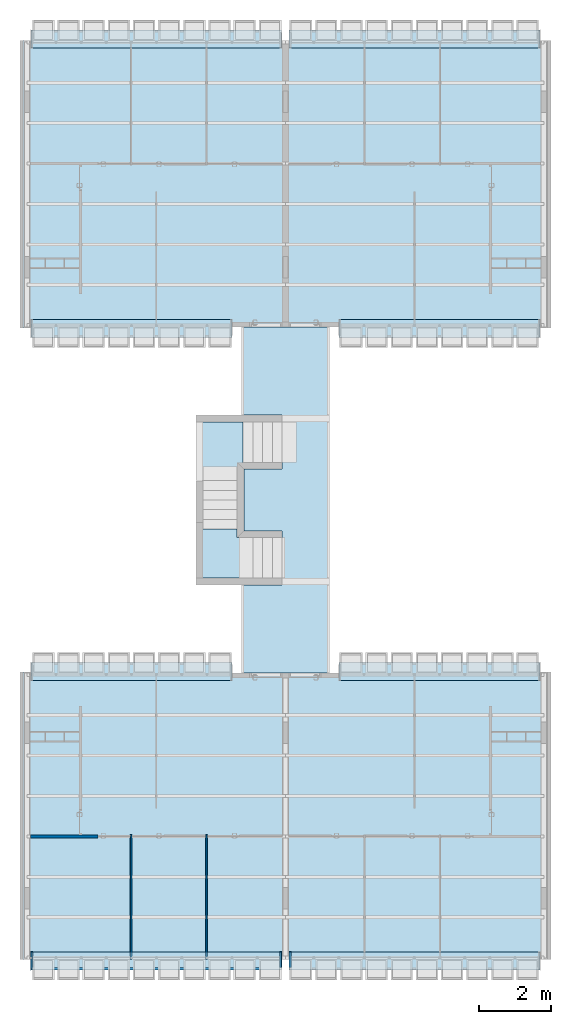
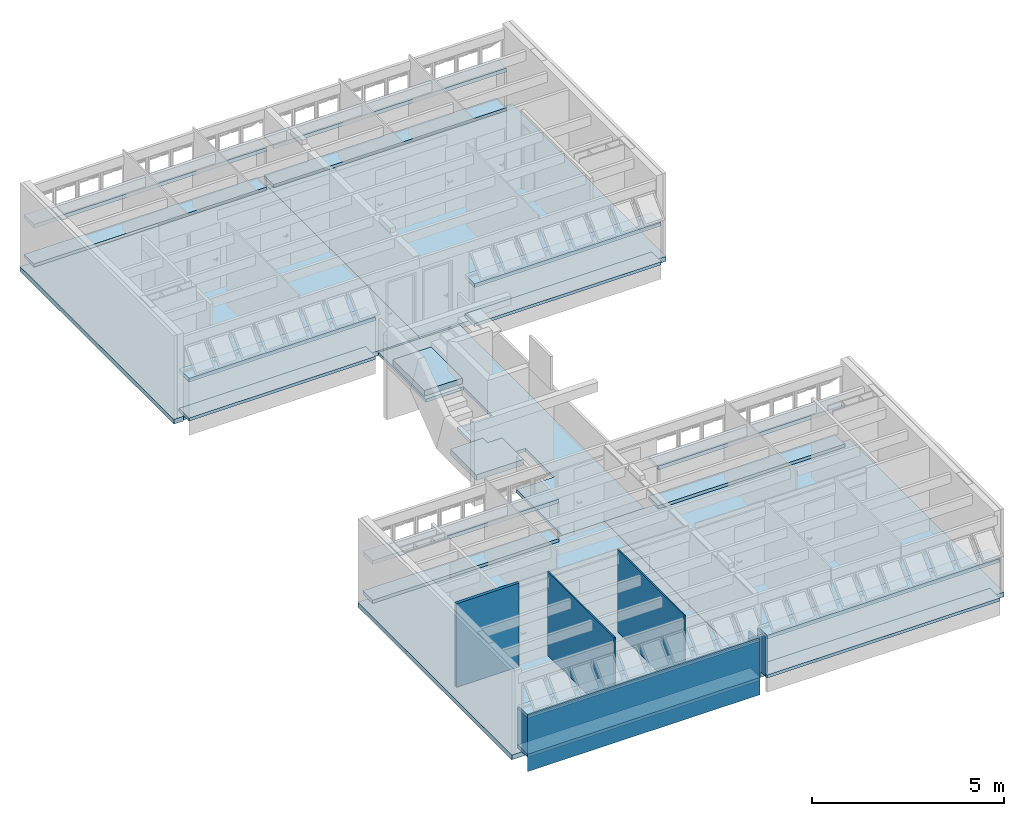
# One storey, part 4 of 38: 23 slabs, 7 walls.
"""IFC2X3 building model written with IfcOpenShell, lengths in millimetres."""

from ifc_helpers import new_model, entity, si_unit, converted_unit, derived_unit, money_unit, direction, frame, origin_with_axes, place, context, subcontext, project, spatial, polyline, outline, extrude, material, layer, layer_set, layer_usage, type_object, element, save


model = new_model("IFC2X3")

# Units and contexts
model_context = context("Model", 3, precision=0.01, world=origin_with_axes(), true_north=direction((0.0, 1.0)))
body_context = subcontext(model_context, "Body", "Model", "MODEL_VIEW")
ifc_project = project(units=[si_unit("LENGTHUNIT", "METRE", prefix="MILLI"), si_unit("AREAUNIT", "SQUARE_METRE"), si_unit("VOLUMEUNIT", "CUBIC_METRE"), converted_unit("PLANEANGLEUNIT", "DEGREE", entity("IfcPlaneAngleMeasure", 0.0174532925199), si_unit("PLANEANGLEUNIT", "RADIAN"), dimensions=[0, 0, 0, 0, 0, 0, 0]), money_unit("USD"), converted_unit("TIMEUNIT", "Year", entity("IfcTimeMeasure", 31556926.0), si_unit("TIMEUNIT", "SECOND"), dimensions=[0, 0, 1, 0, 0, 0, 0]), si_unit("MASSUNIT", "GRAM", prefix="KILO"), si_unit("THERMODYNAMICTEMPERATUREUNIT", "DEGREE_CELSIUS"), si_unit("LUMINOUSINTENSITYUNIT", "LUMEN"), si_unit("ENERGYUNIT", "JOULE", prefix="MEGA"), derived_unit("THERMALCONDUCTANCEUNIT", [(si_unit("POWERUNIT", "WATT"), 1), (si_unit("LENGTHUNIT", "METRE"), -1), (si_unit("THERMODYNAMICTEMPERATUREUNIT", "KELVIN"), -1)]), derived_unit("SPECIFICHEATCAPACITYUNIT", [(si_unit("ENERGYUNIT", "JOULE"), 1), (si_unit("MASSUNIT", "GRAM", prefix="KILO"), -1), (si_unit("THERMODYNAMICTEMPERATUREUNIT", "KELVIN"), -1)]), derived_unit("MASSDENSITYUNIT", [(si_unit("MASSUNIT", "GRAM", prefix="KILO"), 1), (si_unit("VOLUMEUNIT", "CUBIC_METRE"), -1)])], contexts=[model_context])

# Site, building, storey
site_placement = place(None, origin_with_axes())
site = spatial("IfcSite", under=ifc_project, at=site_placement, Name="Local", CompositionType="ELEMENT")
building_placement = place(site_placement, origin_with_axes())
building = spatial("IfcBuilding", under=site, at=building_placement, Name="Construção", CompositionType="ELEMENT")
storey_placement = place(building_placement, frame((0.0, 0.0, 2650.0), z_axis=(0.0, 0.0, 1.0), x_axis=(1.0, 0.0, 0.0)))
storey = spatial("IfcBuildingStorey", under=building, at=storey_placement, Name="Segundo Pavimento", CompositionType="ELEMENT", Elevation=2650.0)

# Slabs
ifc_material_1 = material(Name="Concreto Armado Moldado in Loco - Estrutural")
ifc_layer_1 = layer(ifc_material_1, 150.0, ventilated="UNKNOWN")
ifc_layer_set_1 = layer_set([ifc_layer_1], Name="Concreto Armado Moldado in Loco - Estrutural 150")
ifc_layer_usage_1 = layer_usage(ifc_layer_set_1, "AXIS3", "NEGATIVE", 150.0)
slab_type_1 = type_object("IfcSlabType", Name="Concreto Armado Moldado in Loco - Estrutural 150", PredefinedType="FLOOR")
slab_1_placement = place(storey_placement, frame((0.0, 300.0, 0.0), z_axis=(0.0, 0.0, 1.0), x_axis=(1.0, 0.0, 0.0)))
element("IfcSlab", 1, at=slab_1_placement, inside=storey, type_object=slab_type_1, material=ifc_layer_usage_1, Name="APTO5-LAJE-000", PredefinedType="FLOOR", context=body_context, shape_type="SweptSolid", body=[
    extrude(outline(polyline([(0.0, 0.0), (299.999978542, 0.0), (7385.0, 0.0), (7385.0, 7964.99999866), (6160.00008404, 7964.99999866), (5900.0, 7965.0), (290.0, 7965.0), (289.999999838, 8000.00000006), (0.0, 7999.99999872), (0.0, 0.0)])), frame((0.0, 0.0, -150.0), z_axis=(0.0, 0.0, 1.0), x_axis=(1.0, 0.0, 0.0)), (0.0, 0.0, 1.0), 150.0),
])
ifc_layer_usage_2 = layer_usage(ifc_layer_set_1, "AXIS3", "NEGATIVE", 150.0)
slab_2_placement = place(storey_placement, frame((14770.0, 300.0, 0.0), z_axis=(0.0, 0.0, 1.0), x_axis=(1.0, 0.0, 0.0)))
element("IfcSlab", 2, at=slab_2_placement, inside=storey, type_object=slab_type_1, material=ifc_layer_usage_2, Name="APTO6-LAJE-000", PredefinedType="FLOOR", context=body_context, shape_type="SweptSolid", body=[
    extrude(outline(polyline([(0.0, 0.0), (0.0, 7999.99999872), (-289.999999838, 8000.00000006), (-290.0, 7965.0), (-5900.0, 7965.0), (-6160.00008404, 7964.99999866), (-7385.0, 7964.99999866), (-7385.0, 0.0), (-299.999978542, 0.0), (0.0, 0.0)])), frame((0.0, 0.0, -150.0), z_axis=(0.0, 0.0, 1.0), x_axis=(1.0, 0.0, 0.0)), (0.0, 0.0, 1.0), 150.0),
])
ifc_layer_usage_3 = layer_usage(ifc_layer_set_1, "AXIS3", "NEGATIVE", 150.0)
slab_3_placement = place(storey_placement, frame((0.0, 25860.0, 0.0), z_axis=(0.0, 0.0, 1.0), x_axis=(1.0, 0.0, 0.0)))
element("IfcSlab", 3, at=slab_3_placement, inside=storey, type_object=slab_type_1, material=ifc_layer_usage_3, Name="APTO7-LAJE-000", PredefinedType="FLOOR", context=body_context, shape_type="SweptSolid", body=[
    extrude(outline(polyline([(0.0, 0.0), (0.0, -7999.99999872), (289.999999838, -8000.00000006), (290.0, -7965.0), (5900.0, -7965.0), (6160.00008404, -7964.99999866), (7385.0, -7964.99999866), (7385.0, 0.0), (299.999978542, 0.0), (0.0, 0.0)])), frame((0.0, 0.0, -150.0), z_axis=(0.0, 0.0, 1.0), x_axis=(1.0, 0.0, 0.0)), (0.0, 0.0, 1.0), 150.0),
])
ifc_layer_usage_4 = layer_usage(ifc_layer_set_1, "AXIS3", "NEGATIVE", 150.0)
slab_4_placement = place(storey_placement, frame((14770.0, 25860.0, 0.0), z_axis=(0.0, 0.0, 1.0), x_axis=(1.0, 0.0, 0.0)))
element("IfcSlab", 4, at=slab_4_placement, inside=storey, type_object=slab_type_1, material=ifc_layer_usage_4, Name="APTO8-LAJE-000", PredefinedType="FLOOR", context=body_context, shape_type="SweptSolid", body=[
    extrude(outline(polyline([(0.0, 0.0), (-299.999978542, 0.0), (-7385.0, 0.0), (-7385.0, -7964.99999866), (-6160.00008404, -7964.99999866), (-5900.0, -7965.0), (-290.0, -7965.0), (-289.999999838, -8000.00000006), (0.0, -7999.99999872), (0.0, 0.0)])), frame((0.0, 0.0, -150.0), z_axis=(0.0, 0.0, 1.0), x_axis=(1.0, 0.0, 0.0)), (0.0, 0.0, 1.0), 150.0),
])
ifc_layer_2 = layer(ifc_material_1, 180.0, ventilated="UNKNOWN")
ifc_layer_set_2 = layer_set([ifc_layer_2], Name="Concreto Armado Moldado in Loco - Estrutural 180")
ifc_layer_usage_5 = layer_usage(ifc_layer_set_2, "AXIS3", "NEGATIVE", 180.0)
slab_type_2 = type_object("IfcSlabType", Name="Concreto Armado Moldado in Loco - Estrutural 180", PredefinedType="FLOOR")
slab_5_placement = place(storey_placement, frame((5065.0, 13620.0, 1710.57075871), z_axis=(0.0, 0.0, 1.0), x_axis=(1.0, 0.0, 0.0)))
element("IfcSlab", 5, at=slab_5_placement, inside=storey, type_object=slab_type_2, material=ifc_layer_usage_5, Name="CIRC2-LAJE-005", PredefinedType="FLOOR", context=body_context, shape_type="SweptSolid", body=[
    extrude(outline(polyline([(0.0, 0.0), (1145.0, 0.0), (1145.0, 1630.0), (0.0, 1630.0), (0.0, 0.0)])), frame((0.0, 0.0, -180.0), z_axis=(0.0, 0.0, 1.0), x_axis=(1.0, 0.0, 0.0)), (0.0, 0.0, 1.0), 180.0),
])
ifc_layer_usage_6 = layer_usage(ifc_layer_set_2, "AXIS3", "NEGATIVE", 180.0)
slab_6_placement = place(storey_placement, frame((5065.0, 10910.0, 680.0), z_axis=(0.0, 0.0, 1.0), x_axis=(1.0, 0.0, 0.0)))
element("IfcSlab", 6, at=slab_6_placement, inside=storey, type_object=slab_type_2, material=ifc_layer_usage_6, Name="CIRC2-LAJE-006", PredefinedType="FLOOR", context=body_context, shape_type="SweptSolid", body=[
    extrude(outline(polyline([(0.0, 0.0), (1415.0, 0.0), (1415.0, 1120.0), (975.0, 1120.0), (975.0, 1360.0), (0.0, 1360.0), (0.0, 0.0)])), frame((0.0, 0.0, -180.0), z_axis=(0.0, 0.0, 1.0), x_axis=(1.0, 0.0, 0.0)), (0.0, 0.0, 1.0), 180.0),
])
ifc_layer_3 = layer(ifc_material_1, 120.0, ventilated="UNKNOWN")
ifc_layer_set_3 = layer_set([ifc_layer_3], Name="Concreto Armado Moldado in Loco - Estrutural 120")
ifc_layer_usage_7 = layer_usage(ifc_layer_set_3, "AXIS3", "NEGATIVE", 120.0)
slab_type_3 = type_object("IfcSlabType", Name="Concreto Armado Moldado in Loco - Estrutural 120", PredefinedType="FLOOR")
slab_7_placement = place(storey_placement, frame((300.0, 8564.99999866, 1355.0), z_axis=(0.0, 0.0, 1.0), x_axis=(1.0, 0.0, 0.0)))
element("IfcSlab", 7, at=slab_7_placement, inside=storey, type_object=slab_type_3, material=ifc_layer_usage_7, Name="APTO5-LAJE-003", PredefinedType="FLOOR", context=body_context, shape_type="SweptSolid", body=[
    extrude(outline(polyline([(0.0, 0.0), (0.0, -510.0), (5600.0, -510.0), (5600.0, 0.0), (0.0, 0.0)])), frame((0.0, 0.0, -120.0), z_axis=(0.0, 0.0, 1.0), x_axis=(1.0, 0.0, 0.0)), (0.0, 0.0, 1.0), 120.0),
])
ifc_layer_usage_8 = layer_usage(ifc_layer_set_3, "AXIS3", "NEGATIVE", 120.0)
slab_8_placement = place(storey_placement, frame((300.0, 0.0, 1355.0), z_axis=(0.0, 0.0, 1.0), x_axis=(1.0, 0.0, 0.0)))
element("IfcSlab", 8, at=slab_8_placement, inside=storey, type_object=slab_type_3, material=ifc_layer_usage_8, Name="APTO5-LAJE-002", PredefinedType="FLOOR", context=body_context, shape_type="SweptSolid", body=[
    extrude(outline(polyline([(0.0, 0.0), (6980.0, 0.0), (6980.0, 510.0), (0.0, 510.0), (0.0, 0.0)])), frame((0.0, 0.0, -120.0), z_axis=(0.0, 0.0, 1.0), x_axis=(1.0, 0.0, 0.0)), (0.0, 0.0, 1.0), 120.0),
])
ifc_layer_usage_9 = layer_usage(ifc_layer_set_3, "AXIS3", "NEGATIVE", 120.0)
slab_9_placement = place(storey_placement, frame((14470.0, 8564.99999866, 1355.0), z_axis=(0.0, 0.0, 1.0), x_axis=(1.0, 0.0, 0.0)))
element("IfcSlab", 9, at=slab_9_placement, inside=storey, type_object=slab_type_3, material=ifc_layer_usage_9, Name="APTO6-LAJE-003", PredefinedType="FLOOR", context=body_context, shape_type="SweptSolid", body=[
    extrude(outline(polyline([(0.0, 0.0), (-5600.0, 0.0), (-5600.0, -510.0), (0.0, -510.0), (0.0, 0.0)])), frame((0.0, 0.0, -120.0), z_axis=(0.0, 0.0, 1.0), x_axis=(1.0, 0.0, 0.0)), (0.0, 0.0, 1.0), 120.0),
])
ifc_layer_usage_10 = layer_usage(ifc_layer_set_3, "AXIS3", "NEGATIVE", 120.0)
slab_10_placement = place(storey_placement, frame((14470.0, 0.0, 1355.0), z_axis=(0.0, 0.0, 1.0), x_axis=(1.0, 0.0, 0.0)))
element("IfcSlab", 10, at=slab_10_placement, inside=storey, type_object=slab_type_3, material=ifc_layer_usage_10, Name="APTO6-LAJE-002", PredefinedType="FLOOR", context=body_context, shape_type="SweptSolid", body=[
    extrude(outline(polyline([(0.0, 0.0), (0.0, 510.0), (-6980.0, 510.0), (-6980.0, 0.0), (0.0, 0.0)])), frame((0.0, 0.0, -120.0), z_axis=(0.0, 0.0, 1.0), x_axis=(1.0, 0.0, 0.0)), (0.0, 0.0, 1.0), 120.0),
])
ifc_layer_usage_11 = layer_usage(ifc_layer_set_3, "AXIS3", "NEGATIVE", 120.0)
slab_11_placement = place(storey_placement, frame((300.0, 17595.0000013, 1355.0), z_axis=(0.0, 0.0, 1.0), x_axis=(1.0, 0.0, 0.0)))
element("IfcSlab", 11, at=slab_11_placement, inside=storey, type_object=slab_type_3, material=ifc_layer_usage_11, Name="APTO7-LAJE-003", PredefinedType="FLOOR", context=body_context, shape_type="SweptSolid", body=[
    extrude(outline(polyline([(0.0, 0.0), (5600.0, 0.0), (5600.0, 510.0), (0.0, 510.0), (0.0, 0.0)])), frame((0.0, 0.0, -120.0), z_axis=(0.0, 0.0, 1.0), x_axis=(1.0, 0.0, 0.0)), (0.0, 0.0, 1.0), 120.0),
])
ifc_layer_usage_12 = layer_usage(ifc_layer_set_3, "AXIS3", "NEGATIVE", 120.0)
slab_12_placement = place(storey_placement, frame((300.0, 26160.0, 1355.0), z_axis=(0.0, 0.0, 1.0), x_axis=(1.0, 0.0, 0.0)))
element("IfcSlab", 12, at=slab_12_placement, inside=storey, type_object=slab_type_3, material=ifc_layer_usage_12, Name="APTO7-LAJE-002", PredefinedType="FLOOR", context=body_context, shape_type="SweptSolid", body=[
    extrude(outline(polyline([(0.0, 0.0), (0.0, -510.0), (6980.0, -510.0), (6980.0, 0.0), (0.0, 0.0)])), frame((0.0, 0.0, -120.0), z_axis=(0.0, 0.0, 1.0), x_axis=(1.0, 0.0, 0.0)), (0.0, 0.0, 1.0), 120.0),
])
ifc_layer_usage_13 = layer_usage(ifc_layer_set_3, "AXIS3", "NEGATIVE", 120.0)
slab_13_placement = place(storey_placement, frame((14470.0, 17595.0000013, 1355.0), z_axis=(0.0, 0.0, 1.0), x_axis=(1.0, 0.0, 0.0)))
element("IfcSlab", 13, at=slab_13_placement, inside=storey, type_object=slab_type_3, material=ifc_layer_usage_13, Name="APTO8-LAJE-003", PredefinedType="FLOOR", context=body_context, shape_type="SweptSolid", body=[
    extrude(outline(polyline([(0.0, 0.0), (0.0, 510.0), (-5600.0, 510.0), (-5600.0, 0.0), (0.0, 0.0)])), frame((0.0, 0.0, -120.0), z_axis=(0.0, 0.0, 1.0), x_axis=(1.0, 0.0, 0.0)), (0.0, 0.0, 1.0), 120.0),
])
ifc_layer_usage_14 = layer_usage(ifc_layer_set_3, "AXIS3", "NEGATIVE", 120.0)
slab_14_placement = place(storey_placement, frame((14470.0, 26160.0, 1355.0), z_axis=(0.0, 0.0, 1.0), x_axis=(1.0, 0.0, 0.0)))
element("IfcSlab", 14, at=slab_14_placement, inside=storey, type_object=slab_type_3, material=ifc_layer_usage_14, Name="APTO8-LAJE-002", PredefinedType="FLOOR", context=body_context, shape_type="SweptSolid", body=[
    extrude(outline(polyline([(0.0, 0.0), (-6980.0, 0.0), (-6980.0, -510.0), (0.0, -510.0), (0.0, 0.0)])), frame((0.0, 0.0, -120.0), z_axis=(0.0, 0.0, 1.0), x_axis=(1.0, 0.0, 0.0)), (0.0, 0.0, 1.0), 120.0),
])
ifc_layer_4 = layer(ifc_material_1, 100.0, ventilated="UNKNOWN")
ifc_layer_set_4 = layer_set([ifc_layer_4], Name="Concreto Armado Moldado in Loco - Estrutural 100")
ifc_layer_usage_15 = layer_usage(ifc_layer_set_4, "AXIS3", "NEGATIVE", 100.0)
slab_type_4 = type_object("IfcSlabType", Name="Concreto Armado Moldado in Loco - Estrutural 100", PredefinedType="FLOOR")
slab_15_placement = place(storey_placement, frame((300.0, 0.0, 100.0), z_axis=(0.0, 0.0, 1.0), x_axis=(1.0, 0.0, 0.0)))
element("IfcSlab", 15, at=slab_15_placement, inside=storey, type_object=slab_type_4, material=ifc_layer_usage_15, Name="APTO5-LAJE-001", PredefinedType="FLOOR", context=body_context, shape_type="SweptSolid", body=[
    extrude(outline(polyline([(0.0, 0.0), (6980.0, 0.0), (6980.0, 510.0), (0.0, 510.0), (0.0, 0.0)])), frame((0.0, 0.0, -100.0), z_axis=(0.0, 0.0, 1.0), x_axis=(1.0, 0.0, 0.0)), (0.0, 0.0, 1.0), 100.0),
])
ifc_layer_usage_16 = layer_usage(ifc_layer_set_4, "AXIS3", "NEGATIVE", 100.0)
slab_16_placement = place(storey_placement, frame((300.0, 8564.99999866, 100.0), z_axis=(0.0, 0.0, 1.0), x_axis=(1.0, 0.0, 0.0)))
element("IfcSlab", 16, at=slab_16_placement, inside=storey, type_object=slab_type_4, material=ifc_layer_usage_16, Name="APTO5-LAJE-004", PredefinedType="FLOOR", context=body_context, shape_type="SweptSolid", body=[
    extrude(outline(polyline([(0.0, 0.0), (0.0, -510.0), (5600.0, -510.0), (5600.0, 0.0), (0.0, 0.0)])), frame((0.0, 0.0, -100.0), z_axis=(0.0, 0.0, 1.0), x_axis=(1.0, 0.0, 0.0)), (0.0, 0.0, 1.0), 100.0),
])
ifc_layer_usage_17 = layer_usage(ifc_layer_set_4, "AXIS3", "NEGATIVE", 100.0)
slab_17_placement = place(storey_placement, frame((14470.0, 0.0, 100.0), z_axis=(0.0, 0.0, 1.0), x_axis=(1.0, 0.0, 0.0)))
element("IfcSlab", 17, at=slab_17_placement, inside=storey, type_object=slab_type_4, material=ifc_layer_usage_17, Name="APTO6-LAJE-001", PredefinedType="FLOOR", context=body_context, shape_type="SweptSolid", body=[
    extrude(outline(polyline([(0.0, 0.0), (0.0, 510.0), (-6980.0, 510.0), (-6980.0, 0.0), (0.0, 0.0)])), frame((0.0, 0.0, -100.0), z_axis=(0.0, 0.0, 1.0), x_axis=(1.0, 0.0, 0.0)), (0.0, 0.0, 1.0), 100.0),
])
ifc_layer_usage_18 = layer_usage(ifc_layer_set_4, "AXIS3", "NEGATIVE", 100.0)
slab_18_placement = place(storey_placement, frame((14470.0, 8564.99999866, 100.0), z_axis=(0.0, 0.0, 1.0), x_axis=(1.0, 0.0, 0.0)))
element("IfcSlab", 18, at=slab_18_placement, inside=storey, type_object=slab_type_4, material=ifc_layer_usage_18, Name="APTO6-LAJE-004", PredefinedType="FLOOR", context=body_context, shape_type="SweptSolid", body=[
    extrude(outline(polyline([(0.0, 0.0), (-5600.0, 0.0), (-5600.0, -510.0), (0.0, -510.0), (0.0, 0.0)])), frame((0.0, 0.0, -100.0), z_axis=(0.0, 0.0, 1.0), x_axis=(1.0, 0.0, 0.0)), (0.0, 0.0, 1.0), 100.0),
])
ifc_layer_usage_19 = layer_usage(ifc_layer_set_4, "AXIS3", "NEGATIVE", 100.0)
slab_19_placement = place(storey_placement, frame((300.0, 26160.0, 100.0), z_axis=(0.0, 0.0, 1.0), x_axis=(1.0, 0.0, 0.0)))
element("IfcSlab", 19, at=slab_19_placement, inside=storey, type_object=slab_type_4, material=ifc_layer_usage_19, Name="APTO7-LAJE-001", PredefinedType="FLOOR", context=body_context, shape_type="SweptSolid", body=[
    extrude(outline(polyline([(0.0, 0.0), (0.0, -510.0), (6980.0, -510.0), (6980.0, 0.0), (0.0, 0.0)])), frame((0.0, 0.0, -100.0), z_axis=(0.0, 0.0, 1.0), x_axis=(1.0, 0.0, 0.0)), (0.0, 0.0, 1.0), 100.0),
])
ifc_layer_usage_20 = layer_usage(ifc_layer_set_4, "AXIS3", "NEGATIVE", 100.0)
slab_20_placement = place(storey_placement, frame((300.0, 17595.0000013, 100.0), z_axis=(0.0, 0.0, 1.0), x_axis=(1.0, 0.0, 0.0)))
element("IfcSlab", 20, at=slab_20_placement, inside=storey, type_object=slab_type_4, material=ifc_layer_usage_20, Name="APTO7-LAJE-004", PredefinedType="FLOOR", context=body_context, shape_type="SweptSolid", body=[
    extrude(outline(polyline([(0.0, 0.0), (5600.0, 0.0), (5600.0, 510.0), (0.0, 510.0), (0.0, 0.0)])), frame((0.0, 0.0, -100.0), z_axis=(0.0, 0.0, 1.0), x_axis=(1.0, 0.0, 0.0)), (0.0, 0.0, 1.0), 100.0),
])
ifc_layer_usage_21 = layer_usage(ifc_layer_set_4, "AXIS3", "NEGATIVE", 100.0)
slab_21_placement = place(storey_placement, frame((14470.0, 26160.0, 100.0), z_axis=(0.0, 0.0, 1.0), x_axis=(1.0, 0.0, 0.0)))
element("IfcSlab", 21, at=slab_21_placement, inside=storey, type_object=slab_type_4, material=ifc_layer_usage_21, Name="APTO8-LAJE-001", PredefinedType="FLOOR", context=body_context, shape_type="SweptSolid", body=[
    extrude(outline(polyline([(0.0, 0.0), (-6980.0, 0.0), (-6980.0, -510.0), (0.0, -510.0), (0.0, 0.0)])), frame((0.0, 0.0, -100.0), z_axis=(0.0, 0.0, 1.0), x_axis=(1.0, 0.0, 0.0)), (0.0, 0.0, 1.0), 100.0),
])
ifc_layer_usage_22 = layer_usage(ifc_layer_set_4, "AXIS3", "NEGATIVE", 100.0)
slab_22_placement = place(storey_placement, frame((14470.0, 17595.0000013, 100.0), z_axis=(0.0, 0.0, 1.0), x_axis=(1.0, 0.0, 0.0)))
element("IfcSlab", 22, at=slab_22_placement, inside=storey, type_object=slab_type_4, material=ifc_layer_usage_22, Name="APTO8-LAJE-004", PredefinedType="FLOOR", context=body_context, shape_type="SweptSolid", body=[
    extrude(outline(polyline([(0.0, 0.0), (0.0, 510.0), (-5600.0, 510.0), (-5600.0, 0.0), (0.0, 0.0)])), frame((0.0, 0.0, -100.0), z_axis=(0.0, 0.0, 1.0), x_axis=(1.0, 0.0, 0.0)), (0.0, 0.0, 1.0), 100.0),
])
ifc_layer_usage_23 = layer_usage(ifc_layer_set_4, "AXIS3", "NEGATIVE", 100.0)
slab_23_placement = place(storey_placement, frame((6229.99993205, 13940.0000635, -150.0), z_axis=(0.0, 0.0, 1.0), x_axis=(1.0, 0.0, 0.0)))
element("IfcSlab", 23, at=slab_23_placement, inside=storey, type_object=slab_type_4, material=ifc_layer_usage_23, Name="CIRC2-LAJE-007", PredefinedType="FLOOR", context=body_context, shape_type="SweptSolid", body=[
    extrude(outline(polyline([(0.0, 0.0), (0.0, -1720.00012696), (1060.0001283, -1720.00012696), (1060.0001283, -3220.00011086), (-69.9999320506, -3220.00011086), (-69.9999320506, -5675.00006348), (2380.00006795, -5675.00006348), (2380.00006795, 3954.99993652), (-69.9999320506, 3954.99993652), (-69.9999320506, 1499.99998391), (1060.0001283, 1499.99998391), (1060.0001283, 1309.99988645), (1060.0001283, 0.0), (0.0, 0.0)])), origin_with_axes(), (0.0, 0.0, 1.0), 100.0),
])

# Walls
ifc_material_2 = material(Name="GENÉRICO - VEDAÇÃO EXTERNA")
ifc_layer_5 = layer(ifc_material_2, 40.0, ventilated="UNKNOWN")
ifc_layer_set_5 = layer_set([ifc_layer_5], Name="GENÉRICO - VEDAÇÃO EXTERNA 40")
ifc_layer_usage_24 = layer_usage(ifc_layer_set_5, "AXIS2", "NEGATIVE", 0.0)
wall_type_1 = type_object("IfcWallType", Name="GENÉRICO - VEDAÇÃO EXTERNA 40", PredefinedType="NOTDEFINED")
wall_1_placement = place(storey_placement, frame((3110.0, 3765.0, 0.0), z_axis=(0.0, 0.0, 1.0), x_axis=(0.0, -1.0, 0.0)))
element("IfcWallStandardCase", 24, at=wall_1_placement, inside=storey, type_object=wall_type_1, material=ifc_layer_usage_24, Name="APTO5-PAREDE-007", context=body_context, shape_type="SweptSolid", body=[
    extrude(outline(polyline([(0.0, -40.0), (3465.0, -40.0), (3465.0, 0.0), (0.0, 0.0), (0.0, -40.0)])), origin_with_axes(), (0.0, 0.0, 1.0), 2650.0),
])
ifc_layer_usage_25 = layer_usage(ifc_layer_set_5, "AXIS2", "NEGATIVE", 0.0)
wall_2_placement = place(storey_placement, frame((5210.0, 3765.0, 0.0), z_axis=(0.0, 0.0, 1.0), x_axis=(0.0, -1.0, 0.0)))
element("IfcWallStandardCase", 25, at=wall_2_placement, inside=storey, type_object=wall_type_1, material=ifc_layer_usage_25, Name="APTO5-PAREDE-005", context=body_context, shape_type="SweptSolid", body=[
    extrude(outline(polyline([(0.0, -40.0), (3465.0, -40.0), (3465.0, 0.0), (0.0, 0.0), (0.0, -40.0)])), origin_with_axes(), (0.0, 0.0, 1.0), 2620.0),
])
ifc_layer_6 = layer(ifc_material_2, 90.0, ventilated="UNKNOWN")
ifc_layer_set_6 = layer_set([ifc_layer_6], Name="GENÉRICO - VEDAÇÃO EXTERNA 90")
ifc_layer_usage_26 = layer_usage(ifc_layer_set_6, "AXIS2", "NEGATIVE", 0.0)
wall_type_2 = type_object("IfcWallType", Name="GENÉRICO - VEDAÇÃO EXTERNA 90", PredefinedType="NOTDEFINED")
wall_3_placement = place(storey_placement, frame((290.0, 3765.2195667, 0.0), z_axis=(0.0, 0.0, 1.0), x_axis=(1.0, 0.0, 0.0)))
element("IfcWallStandardCase", 26, at=wall_3_placement, inside=storey, type_object=wall_type_2, material=ifc_layer_usage_26, Name="APTO5-PAREDE-019", context=body_context, shape_type="SweptSolid", body=[
    extrude(outline(polyline([(0.0, -90.0), (1879.99807021, -90.0), (1880.0, 0.0), (0.0, 0.0), (0.0, -90.0)])), origin_with_axes(), (0.0, 0.0, 1.0), 2650.0),
])
ifc_layer_7 = layer(ifc_material_1, 50.0, ventilated="UNKNOWN")
ifc_layer_set_7 = layer_set([ifc_layer_7], Name="Concreto Armado Moldado in Loco - Estrutural 50")
ifc_layer_usage_27 = layer_usage(ifc_layer_set_7, "AXIS2", "NEGATIVE", 50.0)
wall_type_3 = type_object("IfcWallType", Name="Concreto Armado Moldado in Loco - Estrutural 50", PredefinedType="NOTDEFINED")
wall_4_placement = place(storey_placement, frame((300.0, 510.0, 0.0), z_axis=(0.0, 0.0, 1.0), x_axis=(0.0, -1.0, 0.0)))
element("IfcWallStandardCase", 27, at=wall_4_placement, inside=storey, type_object=wall_type_3, material=ifc_layer_usage_27, Name="APTO5-PAREDE-002", context=body_context, shape_type="SweptSolid", body=[
    extrude(outline(polyline([(0.0, 0.0), (510.0, 0.0), (430.0, 50.0), (0.0, 50.0), (0.0, 0.0)])), origin_with_axes(), (0.0, 0.0, 1.0), 1270.0),
])
ifc_layer_usage_28 = layer_usage(ifc_layer_set_7, "AXIS2", "NEGATIVE", 50.0)
wall_5_placement = place(storey_placement, frame((7230.0, 510.0, 0.0), z_axis=(0.0, 0.0, 1.0), x_axis=(0.0, -1.0, 0.0)))
element("IfcWallStandardCase", 28, at=wall_5_placement, inside=storey, type_object=wall_type_3, material=ifc_layer_usage_28, Name="APTO5-PAREDE-001", context=body_context, shape_type="SweptSolid", body=[
    extrude(outline(polyline([(0.0, 0.0), (435.0, 0.0), (435.0, 50.0), (0.0, 50.0), (0.0, 0.0)])), origin_with_axes(), (0.0, 0.0, 1.0), 1270.0),
])
ifc_layer_usage_29 = layer_usage(ifc_layer_set_7, "AXIS2", "POSITIVE", -50.0)
wall_6_placement = place(storey_placement, frame((7540.0, 510.0, 0.0), z_axis=(0.0, 0.0, 1.0), x_axis=(0.0, -1.0, 0.0)))
element("IfcWallStandardCase", 29, at=wall_6_placement, inside=storey, type_object=wall_type_3, material=ifc_layer_usage_29, Name="APTO6-PAREDE-001", context=body_context, shape_type="SweptSolid", body=[
    extrude(outline(polyline([(0.0, -50.0), (435.0, -50.0), (435.0, 0.0), (0.0, 0.0), (0.0, -50.0)])), origin_with_axes(), (0.0, 0.0, 1.0), 1270.0),
])
ifc_layer_8 = layer(ifc_material_1, 80.0, ventilated="UNKNOWN")
ifc_layer_set_8 = layer_set([ifc_layer_8], Name="Concreto Armado Moldado in Loco - Estrutural 80")
ifc_layer_usage_30 = layer_usage(ifc_layer_set_8, "AXIS2", "POSITIVE", -80.0)
wall_type_4 = type_object("IfcWallType", Name="Concreto Armado Moldado in Loco - Estrutural 80", PredefinedType="NOTDEFINED")
wall_7_placement = place(storey_placement, frame((300.0, 80.0, -450.0), z_axis=(0.0, 0.0, 1.0), x_axis=(1.0, 0.0, 0.0)))
element("IfcWallStandardCase", 30, at=wall_7_placement, inside=storey, type_object=wall_type_4, material=ifc_layer_usage_30, Name="APTO5-PAREDE-015", context=body_context, shape_type="SweptSolid", body=[
    extrude(outline(polyline([(0.0, -80.0), (6980.0, -80.0), (6980.0, 0.0), (50.0, 0.0), (0.0, -80.0)])), origin_with_axes(), (0.0, 0.0, 1.0), 1765.0),
])

save(model, "model.ifc")
